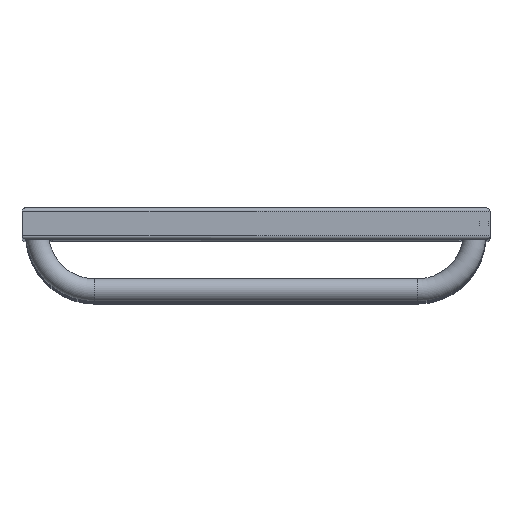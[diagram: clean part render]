
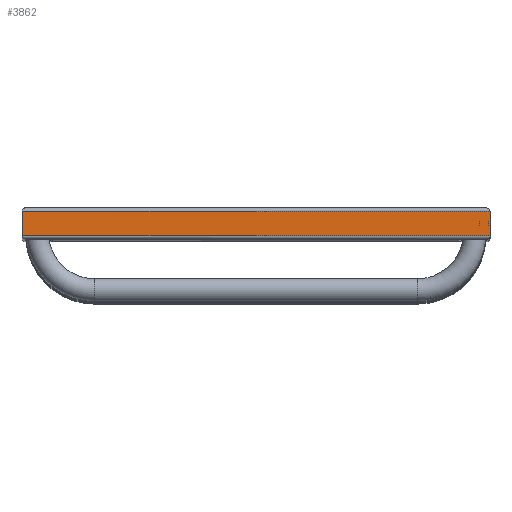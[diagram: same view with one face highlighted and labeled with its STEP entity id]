
A CAD part, top view. The second image highlights one B-rep face of the part: STEP entity #3862.
In plain terms, the highlighted planar face has unit normal (0, 0, 1).
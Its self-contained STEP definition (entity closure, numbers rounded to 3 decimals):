
#243=CARTESIAN_POINT('',(225.,12.,1480.0));
#244=VERTEX_POINT('',#243);
#251=CARTESIAN_POINT('',(225.,-12.,1480.0));
#252=VERTEX_POINT('',#251);
#253=CARTESIAN_POINT('',(225.,12.,1480.0));
#254=DIRECTION('',(0.0,-1.0,0.0));
#255=VECTOR('',#254,24.);
#256=LINE('',#253,#255);
#257=EDGE_CURVE('',#244,#252,#256,.T.);
#3713=CARTESIAN_POINT('',(-225.0,12.,1480.0));
#3714=VERTEX_POINT('',#3713);
#3715=CARTESIAN_POINT('',(-225.0,12.,1480.0));
#3716=DIRECTION('',(1.0,0.0,0.0));
#3717=VECTOR('',#3716,450.);
#3718=LINE('',#3715,#3717);
#3719=EDGE_CURVE('',#3714,#244,#3718,.T.);
#3757=CARTESIAN_POINT('',(-225.0,-12.,1480.0));
#3758=VERTEX_POINT('',#3757);
#3765=CARTESIAN_POINT('',(-225.0,-12.,1480.0));
#3766=DIRECTION('',(0.0,1.0,0.0));
#3767=VECTOR('',#3766,24.);
#3768=LINE('',#3765,#3767);
#3769=EDGE_CURVE('',#3758,#3714,#3768,.T.);
#3821=CARTESIAN_POINT('',(225.,-12.,1480.0));
#3822=DIRECTION('',(-1.0,0.0,0.0));
#3823=VECTOR('',#3822,450.);
#3824=LINE('',#3821,#3823);
#3825=EDGE_CURVE('',#252,#3758,#3824,.T.);
#3851=CARTESIAN_POINT('',(210.,0.,1480.0));
#3852=DIRECTION('',(0.0,0.0,1.0));
#3853=DIRECTION('',(1.0,0.0,0.0));
#3854=AXIS2_PLACEMENT_3D('',#3851,#3852,#3853);
#3855=PLANE('',#3854);
#3856=ORIENTED_EDGE('',*,*,#3719,.F.);
#3857=ORIENTED_EDGE('',*,*,#3769,.F.);
#3858=ORIENTED_EDGE('',*,*,#3825,.F.);
#3859=ORIENTED_EDGE('',*,*,#257,.F.);
#3860=EDGE_LOOP('',(#3856,#3857,#3858,#3859));
#3861=FACE_OUTER_BOUND('',#3860,.T.);
#3862=ADVANCED_FACE('',(#3861),#3855,.T.);
